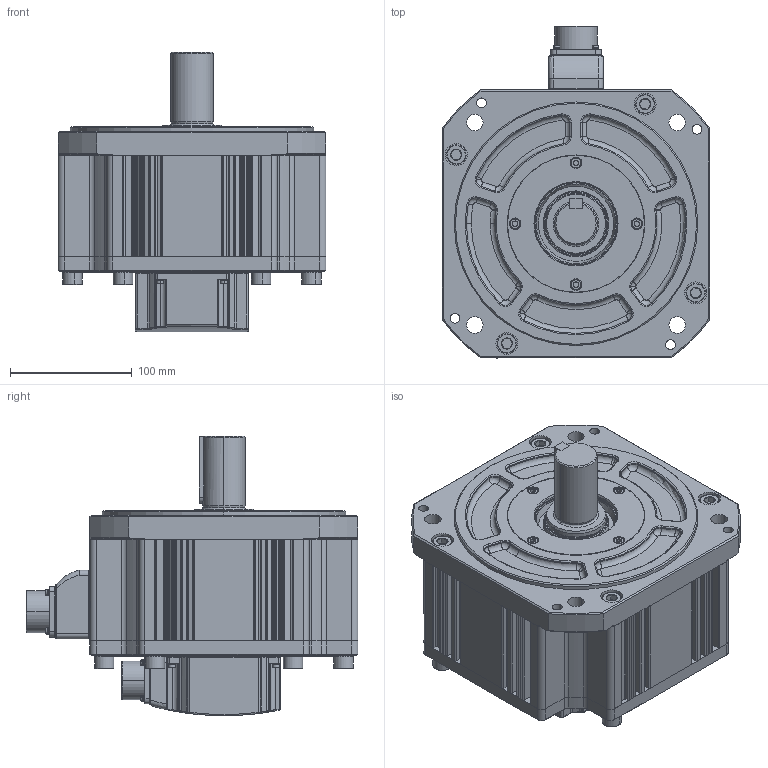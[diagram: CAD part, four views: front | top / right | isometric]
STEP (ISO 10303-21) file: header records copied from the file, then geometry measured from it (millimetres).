
FILE_DESCRIPTION (( 'STEP AP214' ), '1' );
FILE_NAME ('FM22GA005-1G01_Out Line(APM-FG22D_K1,FG20G_K1,FG12M_K1).STEP', '2019-07-10T07:33:35', ( '' ), ( '' ), 'SwSTEP 2.0', 'SolidWorks 2011', '' );
FILE_SCHEMA (( 'AUTOMOTIVE_DESIGN' ));
Length unit declared in the file: millimetre
Products named in the file (1): FM22GA005-1G01_Out Line(APM-FG22D_K1,FG20G_K1,FG12M_K1)
Bounding box: 220 x 272.5 x 229.5 mm (x, y, z)
Volume: 5411212 mm3; surface area: 574786.9 mm2
Topology: 59 solids, 59 shells, 2146 faces, 5341 edges, 3379 vertices
Faces by surface type: cylinder 842, plane 721, cone 279, torus 159, bspline 145
Entity records: 96653 total; most frequent: CARTESIAN_POINT 20899, DIRECTION 11093, ORIENTED_EDGE 10542, EDGE_CURVE 5271, AXIS2_PLACEMENT_3D 4299, VERTEX_POINT 3379, VECTOR 2495, LINE 2495
